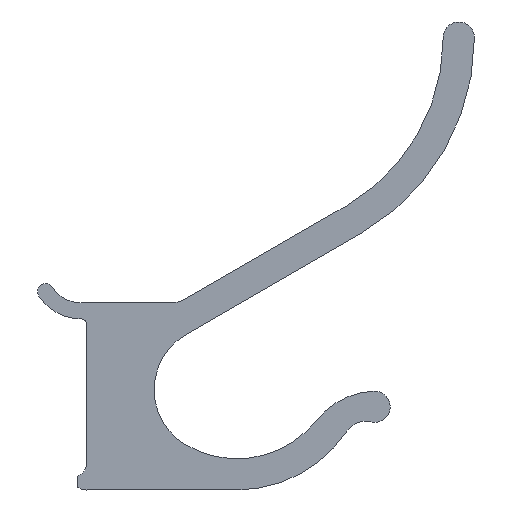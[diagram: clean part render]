
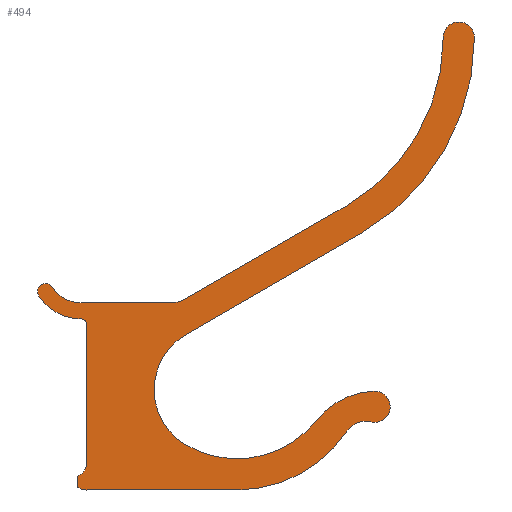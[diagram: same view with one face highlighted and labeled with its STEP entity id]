
A CAD part, front view. The second image highlights one B-rep face of the part: STEP entity #494.
In plain terms, the highlighted planar face has unit normal (0, -1, 0).
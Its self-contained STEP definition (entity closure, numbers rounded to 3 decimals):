
#26=PLANE('',#569);
#32=LINE('',#748,#68);
#39=LINE('',#778,#75);
#44=LINE('',#796,#80);
#49=LINE('',#814,#85);
#58=LINE('',#856,#94);
#63=LINE('',#877,#99);
#68=VECTOR('',#585,1000.);
#75=VECTOR('',#618,1000.);
#80=VECTOR('',#637,1000.);
#85=VECTOR('',#656,1000.);
#94=VECTOR('',#703,1000.);
#99=VECTOR('',#728,1000.);
#196=ORIENTED_EDGE('',*,*,#246,.T.);
#197=ORIENTED_EDGE('',*,*,#250,.T.);
#198=ORIENTED_EDGE('',*,*,#253,.T.);
#199=ORIENTED_EDGE('',*,*,#256,.T.);
#200=ORIENTED_EDGE('',*,*,#259,.T.);
#201=ORIENTED_EDGE('',*,*,#262,.T.);
#202=ORIENTED_EDGE('',*,*,#265,.T.);
#203=ORIENTED_EDGE('',*,*,#268,.T.);
#204=ORIENTED_EDGE('',*,*,#271,.T.);
#205=ORIENTED_EDGE('',*,*,#274,.T.);
#206=ORIENTED_EDGE('',*,*,#277,.T.);
#207=ORIENTED_EDGE('',*,*,#280,.T.);
#208=ORIENTED_EDGE('',*,*,#283,.T.);
#209=ORIENTED_EDGE('',*,*,#286,.T.);
#210=ORIENTED_EDGE('',*,*,#289,.T.);
#211=ORIENTED_EDGE('',*,*,#292,.T.);
#212=ORIENTED_EDGE('',*,*,#295,.T.);
#213=ORIENTED_EDGE('',*,*,#298,.T.);
#214=ORIENTED_EDGE('',*,*,#301,.T.);
#215=ORIENTED_EDGE('',*,*,#304,.T.);
#216=ORIENTED_EDGE('',*,*,#307,.T.);
#217=ORIENTED_EDGE('',*,*,#310,.T.);
#218=ORIENTED_EDGE('',*,*,#313,.T.);
#219=ORIENTED_EDGE('',*,*,#315,.T.);
#246=EDGE_CURVE('',#319,#318,#365,.T.);
#250=EDGE_CURVE('',#318,#321,#32,.T.);
#253=EDGE_CURVE('',#321,#323,#367,.T.);
#256=EDGE_CURVE('',#323,#325,#369,.T.);
#259=EDGE_CURVE('',#325,#327,#371,.T.);
#262=EDGE_CURVE('',#327,#329,#373,.T.);
#265=EDGE_CURVE('',#329,#331,#39,.T.);
#268=EDGE_CURVE('',#331,#333,#375,.T.);
#271=EDGE_CURVE('',#333,#335,#377,.T.);
#274=EDGE_CURVE('',#335,#337,#44,.T.);
#277=EDGE_CURVE('',#337,#339,#379,.T.);
#280=EDGE_CURVE('',#339,#341,#381,.T.);
#283=EDGE_CURVE('',#341,#343,#49,.T.);
#286=EDGE_CURVE('',#343,#345,#383,.T.);
#289=EDGE_CURVE('',#345,#347,#385,.T.);
#292=EDGE_CURVE('',#347,#349,#387,.T.);
#295=EDGE_CURVE('',#349,#351,#389,.T.);
#298=EDGE_CURVE('',#351,#353,#391,.T.);
#301=EDGE_CURVE('',#353,#355,#393,.T.);
#304=EDGE_CURVE('',#355,#357,#58,.T.);
#307=EDGE_CURVE('',#357,#359,#395,.T.);
#310=EDGE_CURVE('',#359,#361,#397,.T.);
#313=EDGE_CURVE('',#361,#363,#399,.T.);
#315=EDGE_CURVE('',#363,#319,#63,.T.);
#318=VERTEX_POINT('',#739);
#319=VERTEX_POINT('',#741);
#321=VERTEX_POINT('',#747);
#323=VERTEX_POINT('',#753);
#325=VERTEX_POINT('',#759);
#327=VERTEX_POINT('',#765);
#329=VERTEX_POINT('',#771);
#331=VERTEX_POINT('',#777);
#333=VERTEX_POINT('',#783);
#335=VERTEX_POINT('',#789);
#337=VERTEX_POINT('',#795);
#339=VERTEX_POINT('',#801);
#341=VERTEX_POINT('',#807);
#343=VERTEX_POINT('',#813);
#345=VERTEX_POINT('',#819);
#347=VERTEX_POINT('',#825);
#349=VERTEX_POINT('',#831);
#351=VERTEX_POINT('',#837);
#353=VERTEX_POINT('',#843);
#355=VERTEX_POINT('',#849);
#357=VERTEX_POINT('',#855);
#359=VERTEX_POINT('',#861);
#361=VERTEX_POINT('',#867);
#363=VERTEX_POINT('',#873);
#365=CIRCLE('',#511,5.);
#367=CIRCLE('',#515,6.6);
#369=CIRCLE('',#518,1.55);
#371=CIRCLE('',#521,9.7);
#373=CIRCLE('',#524,1.05);
#375=CIRCLE('',#528,2.5);
#377=CIRCLE('',#531,0.2);
#379=CIRCLE('',#535,0.2);
#381=CIRCLE('',#538,3.2);
#383=CIRCLE('',#542,25.45);
#385=CIRCLE('',#545,4.25);
#387=CIRCLE('',#548,3.);
#389=CIRCLE('',#551,15.);
#391=CIRCLE('',#554,19.45);
#393=CIRCLE('',#557,12.3);
#395=CIRCLE('',#561,43.4);
#397=CIRCLE('',#564,3.);
#399=CIRCLE('',#567,37.4);
#424=EDGE_LOOP('',(#196,#197,#198,#199,#200,#201,#202,#203,#204,#205,#206,
#207,#208,#209,#210,#211,#212,#213,#214,#215,#216,#217,#218,#219));
#450=FACE_BOUND('',#424,.T.);
#494=ADVANCED_FACE('',(#450),#26,.F.);
#511=AXIS2_PLACEMENT_3D('',#740,#578,#579);
#515=AXIS2_PLACEMENT_3D('',#754,#591,#592);
#518=AXIS2_PLACEMENT_3D('',#760,#598,#599);
#521=AXIS2_PLACEMENT_3D('',#766,#605,#606);
#524=AXIS2_PLACEMENT_3D('',#772,#612,#613);
#528=AXIS2_PLACEMENT_3D('',#784,#624,#625);
#531=AXIS2_PLACEMENT_3D('',#790,#631,#632);
#535=AXIS2_PLACEMENT_3D('',#802,#643,#644);
#538=AXIS2_PLACEMENT_3D('',#808,#650,#651);
#542=AXIS2_PLACEMENT_3D('',#820,#662,#663);
#545=AXIS2_PLACEMENT_3D('',#826,#669,#670);
#548=AXIS2_PLACEMENT_3D('',#832,#676,#677);
#551=AXIS2_PLACEMENT_3D('',#838,#683,#684);
#554=AXIS2_PLACEMENT_3D('',#844,#690,#691);
#557=AXIS2_PLACEMENT_3D('',#850,#697,#698);
#561=AXIS2_PLACEMENT_3D('',#862,#709,#710);
#564=AXIS2_PLACEMENT_3D('',#868,#716,#717);
#567=AXIS2_PLACEMENT_3D('',#874,#723,#724);
#569=AXIS2_PLACEMENT_3D('',#878,#729,#730);
#578=DIRECTION('',(0.,1.,0.));
#579=DIRECTION('',(1.,0.,0.));
#585=DIRECTION('',(-1.,0.,0.));
#591=DIRECTION('',(0.,1.,0.));
#592=DIRECTION('',(1.,0.,0.));
#598=DIRECTION('',(0.,-1.,0.));
#599=DIRECTION('',(1.,0.,0.));
#605=DIRECTION('',(0.,-1.,0.));
#606=DIRECTION('',(1.,0.,0.));
#612=DIRECTION('',(0.,1.,0.));
#613=DIRECTION('',(-1.,0.,0.));
#618=DIRECTION('',(0.,0.,-1.));
#624=DIRECTION('',(0.,1.,0.));
#625=DIRECTION('',(1.,0.,0.));
#631=DIRECTION('',(0.,-1.,0.));
#632=DIRECTION('',(1.,0.,0.));
#637=DIRECTION('',(0.,0.,-1.));
#643=DIRECTION('',(0.,-1.,0.));
#644=DIRECTION('',(1.,0.,0.));
#650=DIRECTION('',(0.,-1.,0.));
#651=DIRECTION('',(1.,0.,0.));
#656=DIRECTION('',(1.,0.,0.));
#662=DIRECTION('',(0.,-1.,0.));
#663=DIRECTION('',(1.,0.,0.));
#669=DIRECTION('',(0.,1.,0.));
#670=DIRECTION('',(1.,0.,0.));
#676=DIRECTION('',(0.,-1.,0.));
#677=DIRECTION('',(-1.,0.,0.));
#683=DIRECTION('',(0.,-1.,0.));
#684=DIRECTION('',(1.,0.,0.));
#690=DIRECTION('',(0.,1.,0.));
#691=DIRECTION('',(1.,0.,0.));
#697=DIRECTION('',(0.,1.,0.));
#698=DIRECTION('',(1.,0.,0.));
#703=DIRECTION('',(0.866,0.,0.5));
#709=DIRECTION('',(0.,-1.,0.));
#710=DIRECTION('',(-1.,0.,0.));
#716=DIRECTION('',(0.,-1.,0.));
#717=DIRECTION('',(1.,0.,0.));
#723=DIRECTION('',(0.,1.,0.));
#724=DIRECTION('',(1.,0.,0.));
#728=DIRECTION('',(-0.866,0.,-0.5));
#729=DIRECTION('',(0.,1.,0.));
#730=DIRECTION('',(0.,0.,1.));
#739=CARTESIAN_POINT('',(-16.261,-7.5,-9.));
#740=CARTESIAN_POINT('',(-16.261,-7.5,-4.));
#741=CARTESIAN_POINT('',(-13.761,-7.5,-8.33));
#747=CARTESIAN_POINT('',(-33.636,-7.5,-9.));
#748=CARTESIAN_POINT('',(-16.261,-7.5,-9.));
#753=CARTESIAN_POINT('',(-39.165,-7.5,-6.004));
#754=CARTESIAN_POINT('',(-33.636,-7.5,-2.4));
#759=CARTESIAN_POINT('',(-41.762,-7.5,-7.697));
#760=CARTESIAN_POINT('',(-40.464,-7.5,-6.851));
#765=CARTESIAN_POINT('',(-33.636,-7.5,-12.1));
#766=CARTESIAN_POINT('',(-33.636,-7.5,-2.4));
#771=CARTESIAN_POINT('',(-32.586,-7.5,-13.15));
#772=CARTESIAN_POINT('',(-33.636,-7.5,-13.15));
#777=CARTESIAN_POINT('',(-32.586,-7.5,-39.931));
#778=CARTESIAN_POINT('',(-32.586,-7.5,-13.15));
#783=CARTESIAN_POINT('',(-34.16,-7.5,-42.254));
#784=CARTESIAN_POINT('',(-35.086,-7.5,-39.931));
#789=CARTESIAN_POINT('',(-34.286,-7.5,-42.439));
#790=CARTESIAN_POINT('',(-34.086,-7.5,-42.439));
#795=CARTESIAN_POINT('',(-34.286,-7.5,-44.388));
#796=CARTESIAN_POINT('',(-34.286,-7.5,-42.439));
#801=CARTESIAN_POINT('',(-34.188,-7.5,-44.56));
#802=CARTESIAN_POINT('',(-34.086,-7.5,-44.388));
#807=CARTESIAN_POINT('',(-32.569,-7.5,-45.));
#808=CARTESIAN_POINT('',(-32.569,-7.5,-41.8));
#813=CARTESIAN_POINT('',(-3.679,-7.5,-45.));
#814=CARTESIAN_POINT('',(-32.569,-7.5,-45.));
#819=CARTESIAN_POINT('',(17.495,-7.5,-33.67));
#820=CARTESIAN_POINT('',(-3.679,-7.5,-19.55));
#825=CARTESIAN_POINT('',(22.076,-7.5,-31.908));
#826=CARTESIAN_POINT('',(21.031,-7.5,-36.027));
#831=CARTESIAN_POINT('',(22.696,-7.5,-26.002));
#832=CARTESIAN_POINT('',(22.814,-7.5,-29.));
#837=CARTESIAN_POINT('',(11.545,-7.5,-31.655));
#838=CARTESIAN_POINT('',(23.286,-7.5,-40.991));
#843=CARTESIAN_POINT('',(-13.492,-7.5,-36.343));
#844=CARTESIAN_POINT('',(-3.679,-7.5,-19.55));
#849=CARTESIAN_POINT('',(-13.436,-7.5,-15.071));
#850=CARTESIAN_POINT('',(-7.286,-7.5,-25.723));
#855=CARTESIAN_POINT('',(20.314,-7.5,4.415));
#856=CARTESIAN_POINT('',(-13.436,-7.5,-15.071));
#861=CARTESIAN_POINT('',(42.014,-7.5,42.));
#862=CARTESIAN_POINT('',(-1.386,-7.5,42.));
#867=CARTESIAN_POINT('',(36.014,-7.5,42.));
#868=CARTESIAN_POINT('',(39.014,-7.5,42.));
#873=CARTESIAN_POINT('',(17.314,-7.5,9.611));
#874=CARTESIAN_POINT('',(-1.386,-7.5,42.));
#877=CARTESIAN_POINT('',(17.314,-7.5,9.611));
#878=CARTESIAN_POINT('',(-16.261,-7.5,-4.));
